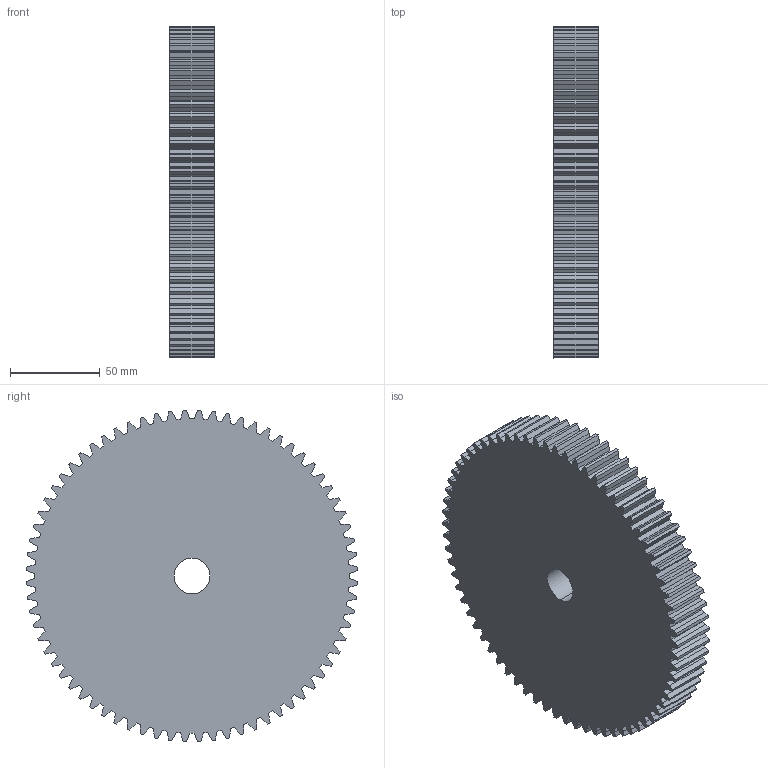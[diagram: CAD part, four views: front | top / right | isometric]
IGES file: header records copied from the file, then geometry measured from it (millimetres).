
Start section: SolidWorks IGES file using analytic representation for surfaces
Global section: file name: C:\Users\Honza\Desktop\Matis (Hotove)\Èelní ozubená kola\MODUL 2,5\CM 29072.IGS; native system: SolidWorks 2010; preprocessor: SolidWorks 2010; author: Honza; date: 130923.113003; units: millimetre
Bounding box: 25 x 184.89 x 184.89 mm (x, y, z)
Surface area: 78249.4 mm2 (no closed solid volume)
Topology: 0 solids, 0 shells, 437 faces, 2704 edges, 2704 vertices
Faces by surface type: bspline 290, revolution 147
